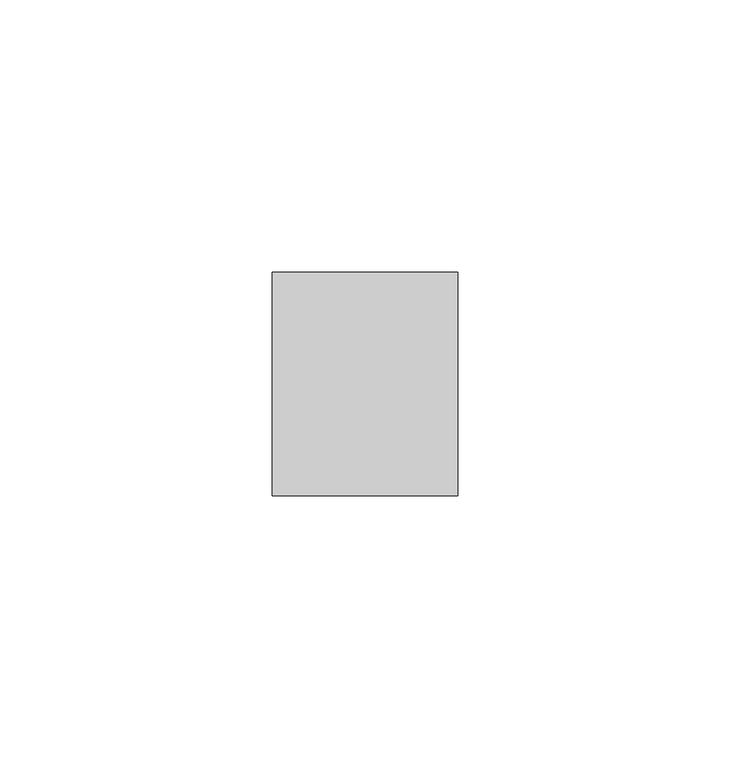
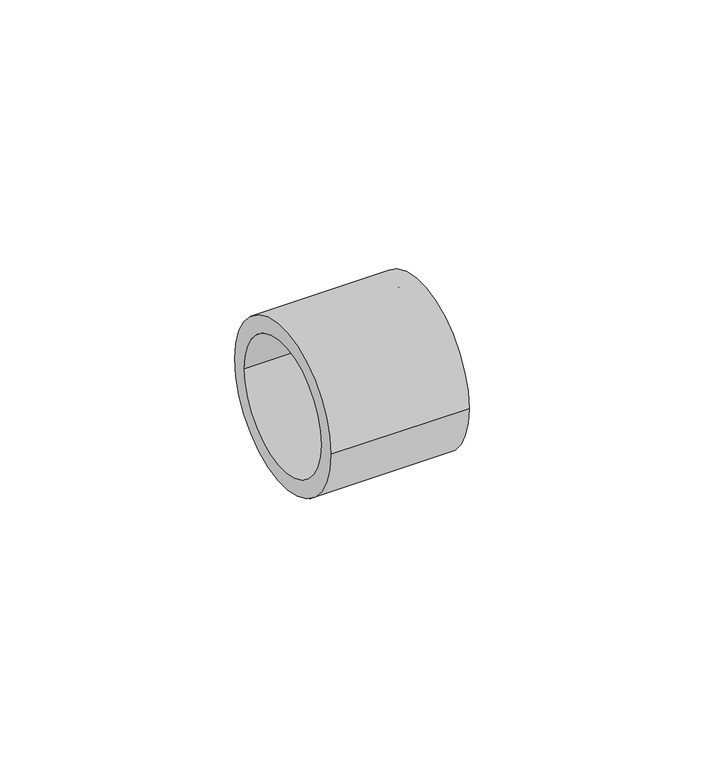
"""IFC4 building model written with IfcOpenShell, lengths in millimetres: pipe fitting geometry, REHAU_RAUTITAN_Sleeve_PX : REHAU_RAUTITAN_Sleeve_PX."""

from ifc_helpers import new_model, si_unit, point, frame, origin, origin_2d, place, context, project, spatial, circle_curve, trimmed, segment, composite_curve, outline, extrude, source, transform, mapped, element, save


def pipe_fitting_e8103e93(model_context):
    return source(origin(), model_context, "Body", "SweptSolid", [
        extrude(outline(composite_curve([segment(trimmed(circle_curve(origin_2d(), 20.5), [point((-20.5, 0.0))], [point((20.5, 0.0))], False, "CARTESIAN"), True, "CONTINUOUS"), segment(trimmed(circle_curve(origin_2d(), 20.5), [point((20.5, 0.0))], [point((-20.5, 0.0))], False, "CARTESIAN"), True, "CONTINUOUS")], self_intersect=False), holes=[composite_curve([segment(trimmed(circle_curve(origin_2d(), 16.35), [point((-16.35, 0.0))], [point((16.35, 0.0))], True, "CARTESIAN"), True, "CONTINUOUS"), segment(trimmed(circle_curve(origin_2d(), 16.35), [point((16.35, 0.0))], [point((-16.35, 0.0))], True, "CARTESIAN"), True, "CONTINUOUS")], self_intersect=False)]), frame((0.0, 0.0, 0.0), z_axis=(1.0, 0.0, 0.0), x_axis=(0.0, 1.0, 0.0)), (0.0, 0.0, 1.0), 34.0),
    ])


if __name__ == "__main__":
    model = new_model("IFC4")
    model_context = context("Model", 3, world=origin())
    ifc_project = project(units=[si_unit("LENGTHUNIT", "METRE", prefix="MILLI")], contexts=[model_context])
    site = spatial("IfcSite", under=ifc_project)
    building = spatial("IfcBuilding", under=site)
    placement = place(None, origin())
    pipe_fitting_shape = pipe_fitting_e8103e93(model_context)
    element("IfcPipeFitting", 1, ObjectType="REHAU_RAUTITAN_Sleeve_PX : REHAU_RAUTITAN_Sleeve_PX", at=placement, inside=building, context=model_context, shape_type="MappedRepresentation", body=[
        mapped(pipe_fitting_shape, transform((0.0, 0.0, 0.0), x_axis=(1.0, 0.0, 0.0), y_axis=(0.0, 1.0, 0.0), z_axis=(0.0, 0.0, 1.0))),
    ])
    save(model, "model.ifc")
